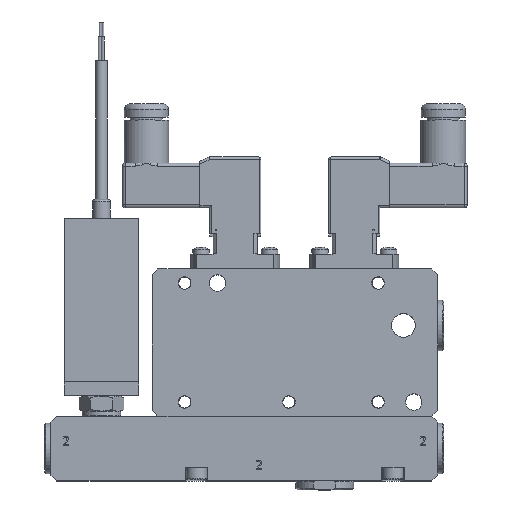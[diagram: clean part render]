
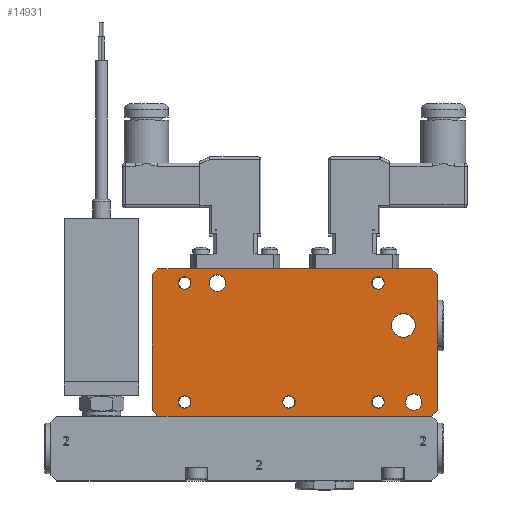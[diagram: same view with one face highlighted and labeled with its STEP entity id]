
A CAD part, top view. The second image highlights one B-rep face of the part: STEP entity #14931.
In plain terms, the highlighted planar face has unit normal (0, 0, 1).
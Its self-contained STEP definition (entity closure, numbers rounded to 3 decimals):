
#719=FACE_BOUND('',#3110,.T.);
#720=FACE_BOUND('',#3111,.T.);
#721=FACE_BOUND('',#3112,.T.);
#722=FACE_BOUND('',#3113,.T.);
#723=FACE_BOUND('',#3114,.T.);
#724=FACE_BOUND('',#3115,.T.);
#725=FACE_BOUND('',#3116,.T.);
#726=FACE_BOUND('',#3117,.T.);
#945=PLANE('',#16246);
#2225=FACE_OUTER_BOUND('',#3109,.T.);
#3109=EDGE_LOOP('',(#10782,#10783,#10784,#10785,#10786,#10787,#10788,#10789));
#3110=EDGE_LOOP('',(#10790));
#3111=EDGE_LOOP('',(#10791));
#3112=EDGE_LOOP('',(#10792));
#3113=EDGE_LOOP('',(#10793));
#3114=EDGE_LOOP('',(#10794));
#3115=EDGE_LOOP('',(#10795));
#3116=EDGE_LOOP('',(#10796));
#3117=EDGE_LOOP('',(#10797));
#4034=CIRCLE('',#16188,4.);
#4055=CIRCLE('',#16226,2.1);
#4056=CIRCLE('',#16228,2.1);
#4057=CIRCLE('',#16230,2.1);
#4058=CIRCLE('',#16232,2.1);
#4059=CIRCLE('',#16234,2.1);
#4060=CIRCLE('',#16236,2.75);
#4061=CIRCLE('',#16238,2.75);
#4471=LINE('',#21120,#5703);
#4571=LINE('',#21535,#5803);
#4574=LINE('',#21540,#5806);
#4576=LINE('',#21544,#5808);
#4578=LINE('',#21548,#5810);
#4580=LINE('',#21558,#5812);
#4581=LINE('',#21560,#5813);
#4582=LINE('',#21561,#5814);
#5703=VECTOR('',#17378,10.);
#5803=VECTOR('',#17678,10.);
#5806=VECTOR('',#17683,10.);
#5808=VECTOR('',#17687,10.);
#5810=VECTOR('',#17691,10.);
#5812=VECTOR('',#17701,10.);
#5813=VECTOR('',#17702,10.);
#5814=VECTOR('',#17703,10.);
#6954=VERTEX_POINT('',#21117);
#6955=VERTEX_POINT('',#21119);
#7039=VERTEX_POINT('',#21375);
#7070=VERTEX_POINT('',#21505);
#7071=VERTEX_POINT('',#21509);
#7072=VERTEX_POINT('',#21513);
#7073=VERTEX_POINT('',#21517);
#7074=VERTEX_POINT('',#21521);
#7075=VERTEX_POINT('',#21525);
#7076=VERTEX_POINT('',#21529);
#7077=VERTEX_POINT('',#21533);
#7078=VERTEX_POINT('',#21538);
#7079=VERTEX_POINT('',#21543);
#7080=VERTEX_POINT('',#21547);
#7084=VERTEX_POINT('',#21557);
#7085=VERTEX_POINT('',#21559);
#8354=EDGE_CURVE('',#6955,#6954,#4471,.T.);
#8456=EDGE_CURVE('',#7039,#7039,#4034,.T.);
#8503=EDGE_CURVE('',#7070,#7070,#4055,.T.);
#8505=EDGE_CURVE('',#7071,#7071,#4056,.T.);
#8507=EDGE_CURVE('',#7072,#7072,#4057,.T.);
#8509=EDGE_CURVE('',#7073,#7073,#4058,.T.);
#8511=EDGE_CURVE('',#7074,#7074,#4059,.T.);
#8513=EDGE_CURVE('',#7075,#7075,#4060,.T.);
#8515=EDGE_CURVE('',#7076,#7076,#4061,.T.);
#8518=EDGE_CURVE('',#7077,#6954,#4571,.T.);
#8521=EDGE_CURVE('',#7077,#7078,#4574,.T.);
#8523=EDGE_CURVE('',#6955,#7079,#4576,.T.);
#8525=EDGE_CURVE('',#7080,#7079,#4578,.T.);
#8530=EDGE_CURVE('',#7084,#7078,#4580,.T.);
#8531=EDGE_CURVE('',#7084,#7085,#4581,.T.);
#8532=EDGE_CURVE('',#7080,#7085,#4582,.T.);
#10782=ORIENTED_EDGE('',*,*,#8518,.F.);
#10783=ORIENTED_EDGE('',*,*,#8521,.T.);
#10784=ORIENTED_EDGE('',*,*,#8530,.F.);
#10785=ORIENTED_EDGE('',*,*,#8531,.T.);
#10786=ORIENTED_EDGE('',*,*,#8532,.F.);
#10787=ORIENTED_EDGE('',*,*,#8525,.T.);
#10788=ORIENTED_EDGE('',*,*,#8523,.F.);
#10789=ORIENTED_EDGE('',*,*,#8354,.T.);
#10790=ORIENTED_EDGE('',*,*,#8503,.T.);
#10791=ORIENTED_EDGE('',*,*,#8505,.T.);
#10792=ORIENTED_EDGE('',*,*,#8507,.T.);
#10793=ORIENTED_EDGE('',*,*,#8509,.T.);
#10794=ORIENTED_EDGE('',*,*,#8511,.T.);
#10795=ORIENTED_EDGE('',*,*,#8513,.T.);
#10796=ORIENTED_EDGE('',*,*,#8515,.T.);
#10797=ORIENTED_EDGE('',*,*,#8456,.T.);
#14931=ADVANCED_FACE('',(#2225,#719,#720,#721,#722,#723,#724,#725,#726),
#945,.T.);
#16188=AXIS2_PLACEMENT_3D('',#21376,#17543,#17544);
#16226=AXIS2_PLACEMENT_3D('',#21506,#17642,#17643);
#16228=AXIS2_PLACEMENT_3D('',#21510,#17647,#17648);
#16230=AXIS2_PLACEMENT_3D('',#21514,#17652,#17653);
#16232=AXIS2_PLACEMENT_3D('',#21518,#17657,#17658);
#16234=AXIS2_PLACEMENT_3D('',#21522,#17662,#17663);
#16236=AXIS2_PLACEMENT_3D('',#21526,#17667,#17668);
#16238=AXIS2_PLACEMENT_3D('',#21530,#17672,#17673);
#16246=AXIS2_PLACEMENT_3D('',#21556,#17699,#17700);
#17378=DIRECTION('',(1.,0.,0.));
#17543=DIRECTION('center_axis',(0.,0.,
-1.));
#17544=DIRECTION('ref_axis',(1.,0.,0.));
#17642=DIRECTION('center_axis',(0.,0.,
-1.));
#17643=DIRECTION('ref_axis',(1.,0.,0.));
#17647=DIRECTION('center_axis',(0.,0.,
-1.));
#17648=DIRECTION('ref_axis',(1.,0.,0.));
#17652=DIRECTION('center_axis',(0.,0.,
-1.));
#17653=DIRECTION('ref_axis',(1.,0.,0.));
#17657=DIRECTION('center_axis',(0.,0.,
-1.));
#17658=DIRECTION('ref_axis',(1.,0.,0.));
#17662=DIRECTION('center_axis',(0.,0.,
-1.));
#17663=DIRECTION('ref_axis',(1.,0.,0.));
#17667=DIRECTION('center_axis',(0.,0.,
-1.));
#17668=DIRECTION('ref_axis',(1.,0.,0.));
#17672=DIRECTION('center_axis',(0.,0.,
-1.));
#17673=DIRECTION('ref_axis',(1.,0.,0.));
#17678=DIRECTION('',(-0.707,-0.707,0.));
#17683=DIRECTION('',(0.,1.,0.));
#17687=DIRECTION('',(-0.707,0.707,0.));
#17691=DIRECTION('',(0.,-1.,0.));
#17699=DIRECTION('center_axis',(0.,0.,
1.));
#17700=DIRECTION('ref_axis',(1.,0.,0.));
#17701=DIRECTION('',(0.707,-0.707,0.));
#17702=DIRECTION('',(-1.,0.,0.));
#17703=DIRECTION('',(0.707,0.707,0.));
#21117=CARTESIAN_POINT('',(76.762,-2.451,9.589));
#21119=CARTESIAN_POINT('',(-15.238,-2.451,9.589));
#21120=CARTESIAN_POINT('',(78.762,-2.451,9.589));
#21375=CARTESIAN_POINT('',(63.262,28.049,9.589));
#21376=CARTESIAN_POINT('Origin',(67.262,28.049,9.589));
#21505=CARTESIAN_POINT('',(-8.338,2.299,9.589));
#21506=CARTESIAN_POINT('Origin',(-6.238,2.299,9.589));
#21509=CARTESIAN_POINT('',(56.662,42.299,9.589));
#21510=CARTESIAN_POINT('Origin',(58.762,42.299,9.589));
#21513=CARTESIAN_POINT('',(56.662,2.299,9.589));
#21514=CARTESIAN_POINT('Origin',(58.762,2.299,9.589));
#21517=CARTESIAN_POINT('',(-8.338,42.299,9.589));
#21518=CARTESIAN_POINT('Origin',(-6.238,42.299,9.589));
#21521=CARTESIAN_POINT('',(26.662,2.299,9.589));
#21522=CARTESIAN_POINT('Origin',(28.762,2.299,9.589));
#21525=CARTESIAN_POINT('',(68.012,2.299,9.589));
#21526=CARTESIAN_POINT('Origin',(70.762,2.299,9.589));
#21529=CARTESIAN_POINT('',(2.012,42.299,9.589));
#21530=CARTESIAN_POINT('Origin',(4.762,42.299,9.589));
#21533=CARTESIAN_POINT('',(78.762,-0.451,9.589));
#21535=CARTESIAN_POINT('',(71.949,-7.264,9.589));
#21538=CARTESIAN_POINT('',(78.762,45.049,9.589));
#21540=CARTESIAN_POINT('',(78.762,47.049,9.589));
#21543=CARTESIAN_POINT('',(-17.238,-0.451,9.589));
#21544=CARTESIAN_POINT('',(-10.426,-7.264,9.589));
#21547=CARTESIAN_POINT('',(-17.238,45.049,9.589));
#21548=CARTESIAN_POINT('',(-17.238,-2.451,9.589));
#21556=CARTESIAN_POINT('Origin',(30.762,22.299,9.589));
#21557=CARTESIAN_POINT('',(76.762,47.049,9.589));
#21558=CARTESIAN_POINT('',(71.949,51.861,9.589));
#21559=CARTESIAN_POINT('',(-15.238,47.049,9.589));
#21560=CARTESIAN_POINT('',(-17.238,47.049,9.589));
#21561=CARTESIAN_POINT('',(-10.426,51.861,9.589));
